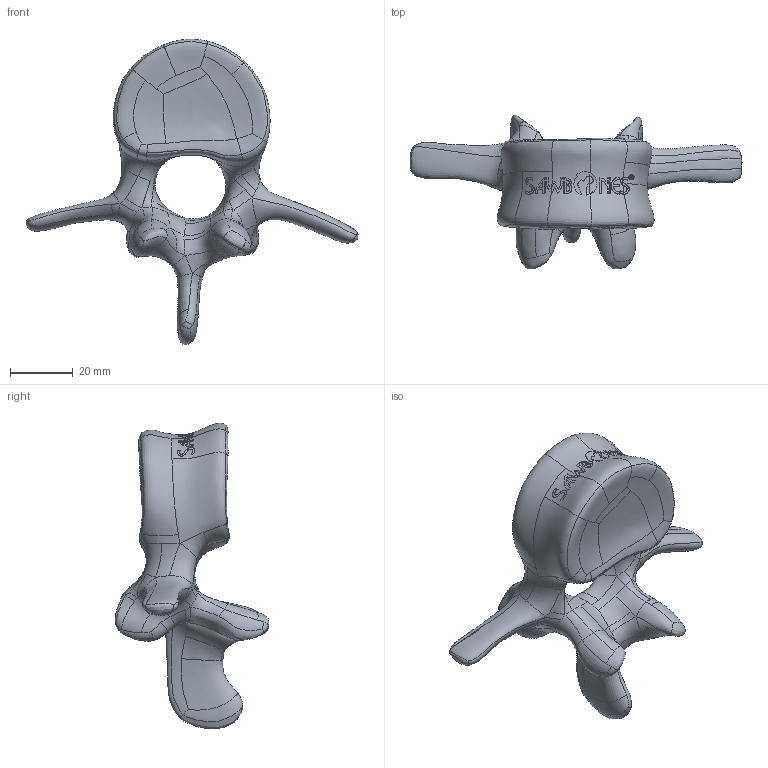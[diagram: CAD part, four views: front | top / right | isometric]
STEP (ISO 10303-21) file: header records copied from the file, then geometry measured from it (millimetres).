
FILE_DESCRIPTION (( 'STEP AP203' ), '1' );
FILE_NAME ('3429-3.STEP', '2025-06-12T14:36:31', ( '' ), ( '' ), 'SwSTEP 2.0', 'SolidWorks 2024', '' );
FILE_SCHEMA (( 'CONFIG_CONTROL_DESIGN' ));
Products named in the file (1): 3429-3
Bounding box: 105.72 x 49.04 x 97.25 mm (x, y, z)
Volume: 61159.1 mm3; surface area: 14553.9 mm2
Topology: 1 solids, 1 shells, 424 faces, 1094 edges, 681 vertices
Faces by surface type: bspline 423, plane 1
Entity records: 266308 total; most frequent: CARTESIAN_POINT 259446, ORIENTED_EDGE 2188, B_SPLINE_CURVE_WITH_KNOTS 1094, EDGE_CURVE 1094, VERTEX_POINT 681, EDGE_LOOP 435, FACE_OUTER_BOUND 424, ADVANCED_FACE 424
